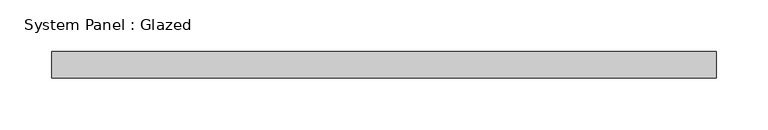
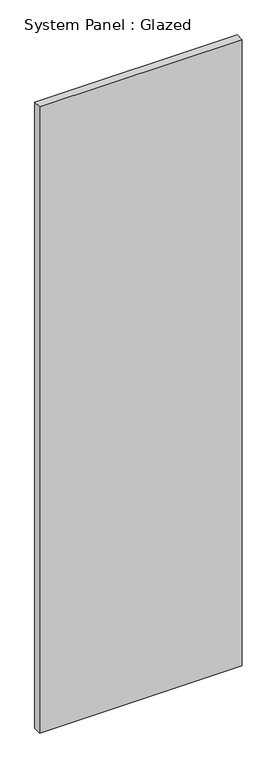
"""IFC4 building model written with IfcOpenShell, lengths in millimetres: plate geometry, System Panel : Glazed."""

from ifc_helpers import new_model, si_unit, origin, origin_with_axes, place, context, project, spatial, polyline, outline, extrude, source, transform, mapped, element, save


def system_panel_glazed_a40fc1cc(model_context):
    return source(origin(), model_context, "Body", "SweptSolid", [
        extrude(outline(polyline([(320.9701328, 19.05), (-320.9701328, 19.05), (-320.9701328, 44.45), (320.9701328, 44.45), (320.9701328, 19.05)])), origin_with_axes(), (0.0, 0.0, 1.0), 2095.5),
    ])


if __name__ == "__main__":
    model = new_model("IFC4")
    model_context = context("Model", 3, world=origin())
    ifc_project = project(units=[si_unit("LENGTHUNIT", "METRE", prefix="MILLI")], contexts=[model_context])
    site = spatial("IfcSite", under=ifc_project)
    building = spatial("IfcBuilding", under=site)
    placement = place(None, origin())
    system_panel_glazed_shape = system_panel_glazed_a40fc1cc(model_context)
    element("IfcPlate", 1, ObjectType="System Panel : Glazed", at=placement, inside=building, context=model_context, shape_type="MappedRepresentation", body=[
        mapped(system_panel_glazed_shape, transform((0.0, 0.0, 0.0), x_axis=(1.0, 0.0, 0.0), y_axis=(0.0, 1.0, 0.0), z_axis=(0.0, 0.0, 1.0))),
    ])
    save(model, "model.ifc")
